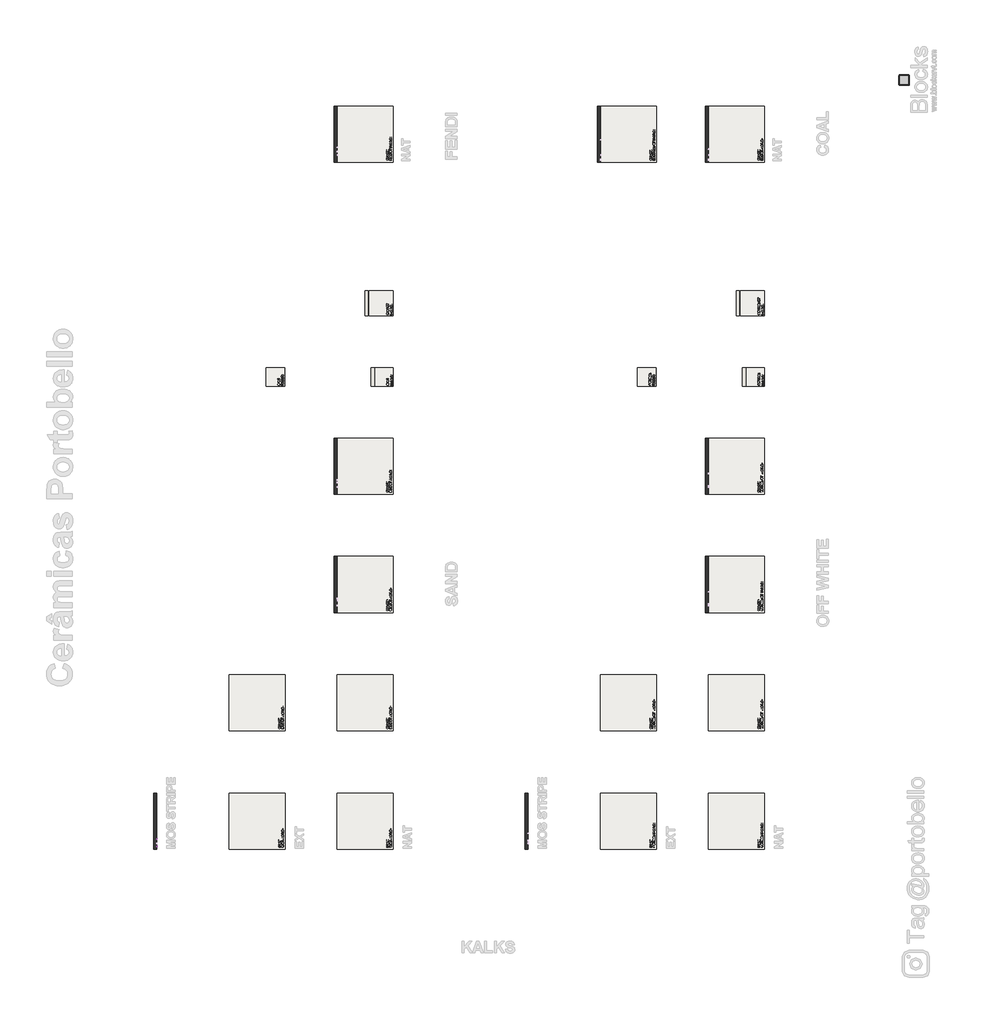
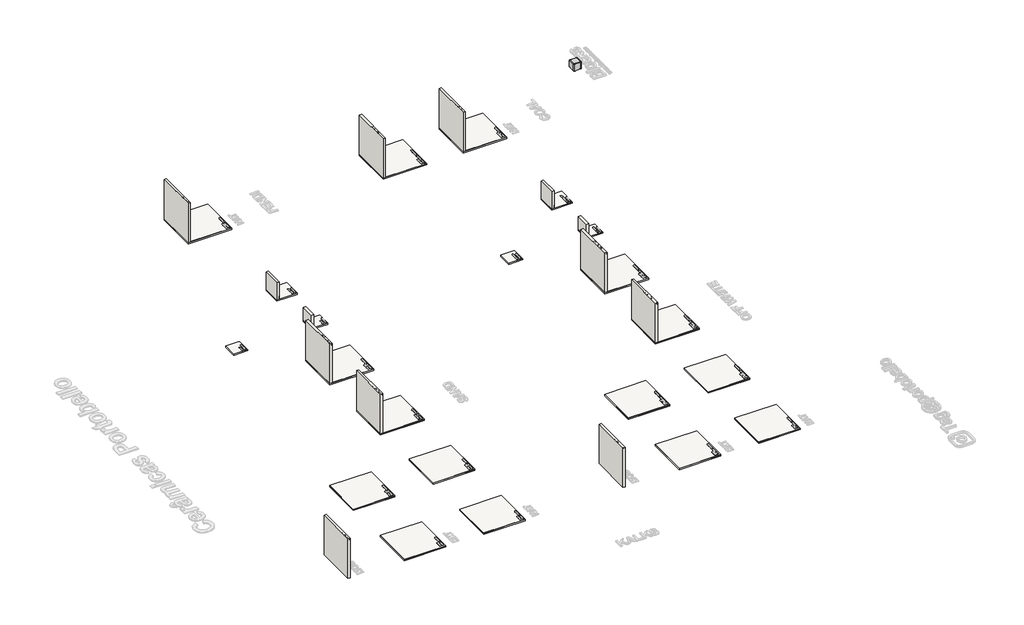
# One storey, part 1 of 19: 42 slabs, 13 walls, 2 proxies, 1 furniture element.
"""IFC4 building model written with IfcOpenShell, lengths in millimetres."""

from ifc_helpers import new_model, si_unit, frame, origin, origin_with_axes, place, context, project, spatial, polyline, outline, extrude, faceted_brep, transform, mapped, element, save
from components import branco_22256ad2

model = new_model("IFC4")

# Units and contexts
model_context = context("Model", 3, world=origin())
ifc_project = project(units=[si_unit("LENGTHUNIT", "METRE", prefix="MILLI")], contexts=[model_context])

# Site, building, storey
site = spatial("IfcSite", under=ifc_project)
building = spatial("IfcBuilding", under=site)
storey = spatial("IfcBuildingStorey", under=building, Name="PORTOBELLO - SHOWROOM", Elevation=0.0)

# Proxies
placement = place(None, origin())
element("IfcBuildingElementProxy", 1, Name="10mm Arial", ObjectType="10mm Arial", at=placement, inside=storey, context=model_context, shape_type="SweptSolid", body=[
    extrude(outline(polyline([(-7011.3816689, 2553.0064243), (-6998.8246301, 2553.0064243), (-6994.7779282, 2540.4371228), (-6984.8941652, 2532.4908717), (-6969.8355289, 2529.4619766), (-6956.7144044, 2531.7551077), (-6948.2408558, 2538.0581525), (-6945.4572153, 2546.4826502), (-6947.54188, 2554.3185367), (-6956.0767423, 2560.0207077), (-6974.3604774, 2564.8154363), (-6994.0421642, 2571.0081166), (-7004.7230048, 2580.3523193), (-7008.2424092, 2592.8357816), (-7003.8891389, 2607.0482894), (-6991.1726846, 2617.0792051), (-6972.5578557, 2620.5005077), (-6952.6922279, 2616.9197896), (-6939.4484761, 2606.3983645), (-6934.4698064, 2590.6775406), (-6947.0268452, 2590.6775406), (-6949.332239, 2598.1700706), (-6954.1392304, 2603.5779359), (-6972.0673463, 2607.9434689), (-6990.0445132, 2603.6269868), (-6995.6853704, 2593.2036636), (-6991.6877194, 2584.4971231), (-6971.1844295, 2577.4828397), (-6948.964357, 2571.1797948), (-6936.8119885, 2561.0017263), (-6932.9001766, 2546.8014813), (-6937.4005997, 2531.7796332), (-6950.3500459, 2520.8167497), (-6969.3450196, 2516.9049378), (-6991.7735585, 2521.123318), (-7005.9615408, 2533.8275096), (-7011.3816689, 2553.0064243)])), frame((-17694.205047, 0.0, 0.0), z_axis=(1.0, 0.0, 0.0), x_axis=(0.0, 1.0, 0.0)), (0.0, 0.0, 1.0), 20.0),
    extrude(outline(polyline([(-6868.5453529, 2527.8923467), (-6880.7222469, 2519.3820099), (-6894.1744652, 2516.9049378), (-6904.6682991, 2518.3948599), (-6912.4091494, 2522.8646261), (-6917.1824183, 2529.6520489), (-6918.773508, 2538.0949407), (-6916.3700123, 2548.0277546), (-6910.0547047, 2555.2382417), (-6901.262325, 2559.3585201), (-6890.3975434, 2561.246981), (-6868.6189293, 2565.563463), (-6868.5453529, 2568.3593662), (-6872.0034436, 2577.6299925), (-6885.8848576, 2581.2597615), (-6898.5890492, 2578.8440031), (-6904.6468393, 2570.2723526), (-6917.2038781, 2571.8419824), (-6911.7714873, 2584.1047156), (-6900.8331293, 2591.2906772), (-6884.2661768, 2593.8168003), (-6869.0481249, 2591.5849828), (-6860.451949, 2585.9809138), (-6856.6014508, 2577.4583142), (-6855.9883141, 2566.4709053), (-6855.9883141, 2550.8481832), (-6855.350652, 2529.0327809), (-6852.8490544, 2518.4745677), (-6865.4060932, 2518.4745677), (-6868.5453529, 2527.8923467)]), holes=[polyline([(-6868.5453529, 2553.0064243), (-6888.8033881, 2549.1559261), (-6899.606856, 2547.1203124), (-6904.4996865, 2543.8093744), (-6906.2164692, 2538.9778575), (-6902.4763356, 2532.1843033), (-6891.5011894, 2529.4619766), (-6878.7969978, 2532.4663462), (-6870.6054921, 2539.738147), (-6868.6189293, 2549.4502317), (-6868.5453529, 2553.0064243)])]), frame((-17694.205047, 0.0, 0.0), z_axis=(1.0, 0.0, 0.0), x_axis=(0.0, 1.0, 0.0)), (0.0, 0.0, 1.0), 20.0),
    extrude(outline(polyline([(-6838.7223858, 2518.4745677), (-6838.7223858, 2592.2471704), (-6826.165347, 2592.2471704), (-6826.165347, 2581.9464746), (-6816.563627, 2590.8492188), (-6803.4547652, 2593.8168003), (-6791.5967022, 2591.4255673), (-6783.5032983, 2585.1470479), (-6779.7386393, 2575.9132098), (-6779.0764517, 2563.773104), (-6779.0764517, 2518.4745677), (-6791.6334904, 2518.4745677), (-6791.6334904, 2562.0808468), (-6793.0804929, 2573.1908831), (-6798.1940527, 2579.0647323), (-6806.8147541, 2581.2597615), (-6820.4386507, 2576.3301428), (-6824.7336729, 2569.1871007), (-6826.165347, 2557.6172119), (-6826.165347, 2518.4745677), (-6838.7223858, 2518.4745677)])), frame((-17694.205047, 0.0, 0.0), z_axis=(1.0, 0.0, 0.0), x_axis=(0.0, 1.0, 0.0)), (0.0, 0.0, 1.0), 20.0),
    extrude(outline(polyline([(-6716.2912578, 2518.4745677), (-6716.2912578, 2530.3203679), (-6724.5992595, 2520.2587953), (-6736.0833092, 2516.9049378), (-6751.6324548, 2521.7609802), (-6762.6198637, 2535.3113003), (-6766.5194129, 2555.2872926), (-6762.9264321, 2575.2755477), (-6752.1597523, 2589.0343343), (-6736.1323601, 2593.8168003), (-6724.55634, 2590.3954977), (-6716.2912578, 2581.5050162), (-6716.2912578, 2618.9308778), (-6703.734219, 2618.9308778), (-6703.734219, 2518.4745677), (-6716.2912578, 2518.4745677)]), holes=[polyline([(-6753.9623741, 2555.3363436), (-6752.5460284, 2543.977987), (-6748.2969914, 2535.8999115), (-6742.1227052, 2531.0714603), (-6734.9306122, 2529.4619766), (-6727.7415849, 2530.9978839), (-6721.7236486, 2535.6056059), (-6717.6493555, 2543.3709817), (-6716.2912578, 2554.3798504), (-6717.673881, 2566.415723), (-6721.8217505, 2574.7605129), (-6727.9929709, 2579.6349494), (-6735.445647, 2581.2597615), (-6742.7113164, 2579.6993287), (-6748.6648734, 2575.0180303), (-6752.6379989, 2566.976743), (-6753.9623741, 2555.3363436)])]), frame((-17694.205047, 0.0, 0.0), z_axis=(1.0, 0.0, 0.0), x_axis=(0.0, 1.0, 0.0)), (0.0, 0.0, 1.0), 20.0),
])
element("IfcBuildingElementProxy", 2, Name="10mm Arial Narrow", ObjectType="10mm Arial Narrow", at=placement, inside=storey, context=model_context, shape_type="SweptSolid", body=[
    extrude(outline(polyline([(-6644.7671845, 2518.4745677), (-6644.7671845, 2615.7916181), (-6614.5272845, 2615.7916181), (-6598.7819351, 2613.9767336), (-6587.6964243, 2604.8164719), (-6583.5516205, 2588.3721467), (-6585.2776002, 2576.7041561), (-6590.4555393, 2567.402873), (-6599.8702527, 2561.314426), (-6614.3065553, 2559.2849437), (-6635.3494054, 2559.2849437), (-6635.3494054, 2518.4745677), (-6644.7671845, 2518.4745677)]), holes=[polyline([(-6635.3494054, 2570.2723526), (-6613.1538584, 2570.2723526), (-6597.8254419, 2574.6501483), (-6592.9693996, 2587.857112), (-6595.3606325, 2597.6795612), (-6601.1363799, 2603.2836303), (-6613.3745876, 2604.8042092), (-6635.3494054, 2604.8042092), (-6635.3494054, 2570.2723526)])]), frame((-17694.205047, 0.0, 0.0), z_axis=(1.0, 0.0, 0.0), x_axis=(0.0, 1.0, 0.0)), (0.0, 0.0, 1.0), 20.0),
    extrude(outline(polyline([(-6575.7034713, 2553.7912392), (-6573.8150104, 2569.8216971), (-6568.1496276, 2581.3701261), (-6559.5902399, 2588.350687), (-6549.0197639, 2590.6775406), (-6538.5719152, 2588.350687), (-6529.988002, 2581.3701261), (-6524.2490429, 2570.0056381), (-6522.3360565, 2554.5270032), (-6524.2153204, 2537.9447223), (-6529.8531119, 2526.2123523), (-6538.4033026, 2519.2317914), (-6549.0197639, 2516.9049378), (-6559.5135978, 2519.2379228), (-6568.088314, 2526.2368778), (-6573.7996819, 2537.7914381), (-6575.7034713, 2553.7912392)]), holes=[polyline([(-6566.2856922, 2553.8157647), (-6565.0256964, 2541.6879216), (-6561.2457089, 2533.1162711), (-6555.6017859, 2528.0211054), (-6548.7499837, 2526.3227169), (-6542.2568665, 2528.0364339), (-6536.7570307, 2533.1775847), (-6533.0046344, 2541.7645636), (-6531.7538356, 2553.8157647), (-6533.0138314, 2565.9068196), (-6536.7938189, 2574.4662073), (-6542.4377418, 2579.561373), (-6549.289544, 2581.2597615), (-6555.8286465, 2579.5521759), (-6561.3192853, 2574.4294191), (-6565.0440905, 2565.8608343), (-6566.2856922, 2553.8157647)])]), frame((-17694.205047, 0.0, 0.0), z_axis=(1.0, 0.0, 0.0), x_axis=(0.0, 1.0, 0.0)), (0.0, 0.0, 1.0), 20.0),
    extrude(outline(polyline([(-6453.2723433, 2526.3227169), (-6451.7027134, 2516.9049378), (-6458.8150987, 2516.9049378), (-6466.8104007, 2518.9528143), (-6470.97973, 2524.5568833), (-6472.1079014, 2538.7080774), (-6472.1079014, 2579.6901317), (-6479.9560507, 2579.6901317), (-6479.9560507, 2582.8293914), (-6481.5256805, 2578.1205018), (-6488.8342695, 2579.6901317), (-6494.7081187, 2577.4460515), (-6498.4482523, 2571.1797948), (-6500.3612386, 2556.2928368), (-6500.3612386, 2518.4745677), (-6509.7790177, 2518.4745677), (-6509.7790177, 2589.1079107), (-6500.3612386, 2589.1079107), (-6500.3612386, 2579.7391826), (-6494.3279739, 2588.5192995), (-6488.1475564, 2590.6775406), (-6479.9560507, 2589.1079107), (-6472.1079014, 2589.1079107), (-6472.1079014, 2604.8042092), (-6462.6901223, 2612.6523584), (-6462.6901223, 2589.1079107), (-6453.2723433, 2589.1079107), (-6453.2723433, 2579.6901317), (-6462.6901223, 2579.6901317), (-6462.6901223, 2536.5498364), (-6461.8562565, 2528.8243145), (-6457.3926216, 2526.3227169), (-6453.2723433, 2526.3227169)])), frame((-17694.205047, 0.0, 0.0), z_axis=(1.0, 0.0, 0.0), x_axis=(0.0, 1.0, 0.0)), (0.0, 0.0, 1.0), 20.0),
    extrude(outline(polyline([(-6446.9938239, 2553.7912392), (-6445.105363, 2569.8216971), (-6439.4399802, 2581.3701261), (-6430.8805925, 2588.350687), (-6420.3101165, 2590.6775406), (-6409.8622678, 2588.350687), (-6401.2783546, 2581.3701261), (-6395.5393955, 2570.0056381), (-6393.6264091, 2554.5270032), (-6395.505673, 2537.9447223), (-6401.1434646, 2526.2123523), (-6409.6936553, 2519.2317914), (-6420.3101165, 2516.9049378), (-6430.8039504, 2519.2379228), (-6439.3786666, 2526.2368778), (-6445.0900346, 2537.7914381), (-6446.9938239, 2553.7912392)]), holes=[polyline([(-6437.5760448, 2553.8157647), (-6436.316049, 2541.6879216), (-6432.5360615, 2533.1162711), (-6426.8921385, 2528.0211054), (-6420.0403364, 2526.3227169), (-6413.5472192, 2528.0364339), (-6408.0473833, 2533.1775847), (-6404.294987, 2541.7645636), (-6403.0441882, 2553.8157647), (-6404.304184, 2565.9068196), (-6408.0841715, 2574.4662073), (-6413.7280945, 2579.561373), (-6420.5798966, 2581.2597615), (-6427.1189991, 2579.5521759), (-6432.6096379, 2574.4294191), (-6436.3344431, 2565.8608343), (-6437.5760448, 2553.8157647)])]), frame((-17694.205047, 0.0, 0.0), z_axis=(1.0, 0.0, 0.0), x_axis=(0.0, 1.0, 0.0)), (0.0, 0.0, 1.0), 20.0),
    extrude(outline(polyline([(-6371.6515913, 2518.4745677), (-6381.0693703, 2518.4745677), (-6381.0693703, 2615.7916181), (-6371.6515913, 2615.7916181), (-6371.6515913, 2581.5785926), (-6364.5024178, 2588.4211977), (-6355.6119363, 2590.6775406), (-6343.1652621, 2586.6185759), (-6334.2012042, 2574.3190545), (-6330.8412153, 2554.3307995), (-6332.7082164, 2538.4321659), (-6338.3092198, 2526.641548), (-6346.399558, 2519.3390904), (-6355.7345636, 2516.9049378), (-6364.7599352, 2519.4310609), (-6371.6515913, 2526.9358536), (-6371.6515913, 2518.4745677)]), holes=[polyline([(-6371.6515913, 2554.3307995), (-6369.640503, 2537.6657451), (-6363.9505948, 2529.2289847), (-6355.7836145, 2526.3227169), (-6350.0415897, 2528.0517623), (-6344.9801466, 2533.2388984), (-6340.2589943, 2553.938392), (-6344.8084684, 2574.6501483), (-6349.8760428, 2579.6073582), (-6355.9798183, 2581.2597615), (-6361.7555656, 2579.5307161), (-6366.8691253, 2574.34358), (-6371.6515913, 2554.3307995)])]), frame((-17694.205047, 0.0, 0.0), z_axis=(1.0, 0.0, 0.0), x_axis=(0.0, 1.0, 0.0)), (0.0, 0.0, 1.0), 20.0),
    extrude(outline(polyline([(-6280.6130602, 2540.4493855), (-6271.1952811, 2538.8797557), (-6280.392331, 2522.4476932), (-6296.8734444, 2516.9049378), (-6308.0754511, 2519.2379228), (-6316.9107504, 2526.2368778), (-6322.6497095, 2537.6442853), (-6324.5626959, 2553.202628), (-6322.6405125, 2569.3066623), (-6316.8739622, 2581.0758205), (-6308.164356, 2588.2771106), (-6297.4130046, 2590.6775406), (-6287.090849, 2588.359884), (-6278.6387602, 2581.4069143), (-6273.0009686, 2570.0638861), (-6271.1217047, 2554.5760541), (-6271.1952811, 2551.4367944), (-6315.1449168, 2551.4367944), (-6309.344644, 2532.6502872), (-6303.6148819, 2527.9046095), (-6296.7508171, 2526.3227169), (-6286.916105, 2529.854384), (-6280.6130602, 2540.4493855)]), holes=[polyline([(-6314.5072547, 2560.8545735), (-6280.6130602, 2560.8545735), (-6284.7333385, 2574.6378856), (-6290.3619331, 2579.6042925), (-6297.3394282, 2581.2597615), (-6309.1361776, 2575.7415316), (-6314.5072547, 2560.8545735)])]), frame((-17694.205047, 0.0, 0.0), z_axis=(1.0, 0.0, 0.0), x_axis=(0.0, 1.0, 0.0)), (0.0, 0.0, 1.0), 20.0),
    extrude(outline(polyline([(-17674.205047, -6249.2204633), (-17674.205047, -6258.6382424), (-17694.205047, -6258.6382424), (-17694.205047, -6249.2204633), (-17674.205047, -6249.2204633)])), frame((0.0, 0.0, 2518.4745677), z_axis=(0.0, 0.0, 1.0), x_axis=(1.0, 0.0, 0.0)), (0.0, 0.0, 1.0), 97.3170505),
    extrude(outline(polyline([(-17674.205047, -6224.1063857), (-17674.205047, -6233.5241648), (-17694.205047, -6233.5241648), (-17694.205047, -6224.1063857), (-17674.205047, -6224.1063857)])), frame((0.0, 0.0, 2518.4745677), z_axis=(0.0, 0.0, 1.0), x_axis=(1.0, 0.0, 0.0)), (0.0, 0.0, 1.0), 97.3170505),
    extrude(outline(polyline([(-6213.1189768, 2553.7912392), (-6211.2305159, 2569.8216971), (-6205.5651332, 2581.3701261), (-6197.0057454, 2588.350687), (-6186.4352694, 2590.6775406), (-6175.9874208, 2588.350687), (-6167.4035075, 2581.3701261), (-6161.6645484, 2570.0056381), (-6159.751562, 2554.5270032), (-6161.6308259, 2537.9447223), (-6167.2686175, 2526.2123523), (-6175.8188082, 2519.2317914), (-6186.4352694, 2516.9049378), (-6196.9291033, 2519.2379228), (-6205.5038195, 2526.2368778), (-6211.2151875, 2537.7914381), (-6213.1189768, 2553.7912392)]), holes=[polyline([(-6203.7011977, 2553.8157647), (-6202.4412019, 2541.6879216), (-6198.6612144, 2533.1162711), (-6193.0172915, 2528.0211054), (-6186.1654893, 2526.3227169), (-6179.6723721, 2528.0364339), (-6174.1725363, 2533.1775847), (-6170.4201399, 2541.7645636), (-6169.1693411, 2553.8157647), (-6170.429337, 2565.9068196), (-6174.2093245, 2574.4662073), (-6179.8532474, 2579.561373), (-6186.7050496, 2581.2597615), (-6193.244152, 2579.5521759), (-6198.7347908, 2574.4294191), (-6202.459596, 2565.8608343), (-6203.7011977, 2553.8157647)])]), frame((-17694.205047, 0.0, 0.0), z_axis=(1.0, 0.0, 0.0), x_axis=(0.0, 1.0, 0.0)), (0.0, 0.0, 1.0), 20.0),
])

# Furniture
branco_shape = branco_22256ad2(model_context)
element("IfcFurniture", 3, ObjectType="Blks_Mob_Blocks Revit_Cubo : Branco", at=placement, inside=storey, context=model_context, shape_type="MappedRepresentation", body=[
    mapped(branco_shape, transform((18345.6723222, 29953.4130017, 0.0), x_axis=(1.0, 0.0, 0.0), y_axis=(0.0, 1.0, 0.0), z_axis=(0.0, 0.0, 1.0))),
])

# Slabs
element("IfcSlab", 4, ObjectType="PORTOBELLO - KALKS FENDI ST 120X270 NAT RET", at=placement, inside=storey, context=model_context, shape_type="SweptSolid", body=[
    extrude(outline(polyline([(-6294.2033025, 26001.8493171), (-8994.2033025, 26001.8493171), (-8994.2033025, 28701.8493171), (-6294.2033025, 28701.8493171), (-6294.2033025, 26001.8493171)])), frame((0.0, 0.0, -17.0), z_axis=(0.0, 0.0, 1.0), x_axis=(1.0, 0.0, 0.0)), (0.0, 0.0, 1.0), 17.0),
])
element("IfcSlab", 5, ObjectType="PORTOBELLO - LAJE", at=placement, inside=storey, context=model_context, shape_type="SweptSolid", body=[
    extrude(outline(polyline([(-6294.2033025, 28701.8493171), (-6294.2033025, 26001.8493171), (-9144.2033025, 26001.8493171), (-9144.2033025, 28701.8493171), (-6294.2033025, 28701.8493171)])), frame((0.0, 0.0, -97.0), z_axis=(0.0, 0.0, 1.0), x_axis=(1.0, 0.0, 0.0)), (0.0, 0.0, 1.0), 80.0),
])
element("IfcSlab", 6, ObjectType="PORTOBELLO - KALKS COAL ST 120X270 NAT RET", at=placement, inside=storey, context=model_context, shape_type="SweptSolid", body=[
    extrude(outline(polyline([(11605.7966975, 26001.8493171), (8905.7966975, 26001.8493171), (8905.7966975, 28701.8493171), (11605.7966975, 28701.8493171), (11605.7966975, 26001.8493171)])), frame((0.0, 0.0, -17.0), z_axis=(0.0, 0.0, 1.0), x_axis=(1.0, 0.0, 0.0)), (0.0, 0.0, 1.0), 17.0),
])
element("IfcSlab", 7, ObjectType="PORTOBELLO - LAJE", at=placement, inside=storey, context=model_context, shape_type="SweptSolid", body=[
    extrude(outline(polyline([(11605.7966975, 28701.8493171), (11605.7966975, 26001.8493171), (8755.7966975, 26001.8493171), (8755.7966975, 28701.8493171), (11605.7966975, 28701.8493171)])), frame((0.0, 0.0, -97.0), z_axis=(0.0, 0.0, 1.0), x_axis=(1.0, 0.0, 0.0)), (0.0, 0.0, 1.0), 80.0),
])
element("IfcSlab", 8, ObjectType="PORTOBELLO - KALKS COAL FRIEZE ST 120X270 NAT RET", at=placement, inside=storey, context=model_context, shape_type="SweptSolid", body=[
    extrude(outline(polyline([(6405.7966975, 26001.8493171), (3705.7966975, 26001.8493171), (3705.7966975, 28701.8493171), (6405.7966975, 28701.8493171), (6405.7966975, 26001.8493171)])), frame((0.0, 0.0, -17.0), z_axis=(0.0, 0.0, 1.0), x_axis=(1.0, 0.0, 0.0)), (0.0, 0.0, 1.0), 17.0),
])
element("IfcSlab", 9, ObjectType="PORTOBELLO - LAJE", at=placement, inside=storey, context=model_context, shape_type="SweptSolid", body=[
    extrude(outline(polyline([(6405.7966975, 28701.8493171), (6405.7966975, 26001.8493171), (3555.7966975, 26001.8493171), (3555.7966975, 28701.8493171), (6405.7966975, 28701.8493171)])), frame((0.0, 0.0, -97.0), z_axis=(0.0, 0.0, 1.0), x_axis=(1.0, 0.0, 0.0)), (0.0, 0.0, 1.0), 80.0),
])
element("IfcSlab", 10, ObjectType="PORTOBELLO - LAJE", at=placement, inside=storey, context=model_context, shape_type="SweptSolid", body=[
    extrude(outline(polyline([(-6294.2033025, -4396.3032199), (-6294.2033025, -7096.3032199), (-8994.2033025, -7096.3032199), (-8994.2033025, -4396.3032199), (-6294.2033025, -4396.3032199)])), frame((0.0, 0.0, -80.0), z_axis=(0.0, 0.0, 1.0), x_axis=(1.0, 0.0, 0.0)), (0.0, 0.0, 1.0), 80.0),
])
element("IfcSlab", 11, ObjectType="PORTOBELLO - KALKS SAND 90X90 NAT RET", at=placement, inside=storey, context=model_context, shape_type="SweptSolid", body=[
    extrude(outline(polyline([(-6294.2033025, -7096.3032199), (-8994.2033025, -7096.3032199), (-8994.2033025, -4396.3032199), (-6294.2033025, -4396.3032199), (-6294.2033025, -7096.3032199)])), origin_with_axes(), (0.0, 0.0, 1.0), 18.0),
])
element("IfcSlab", 12, ObjectType="PORTOBELLO - LAJE", at=placement, inside=storey, context=model_context, shape_type="SweptSolid", body=[
    extrude(outline(polyline([(-6294.2033025, 1303.6967801), (-6294.2033025, -1396.3032199), (-8994.2033025, -1396.3032199), (-8994.2033025, 1303.6967801), (-6294.2033025, 1303.6967801)])), frame((0.0, 0.0, -80.0), z_axis=(0.0, 0.0, 1.0), x_axis=(1.0, 0.0, 0.0)), (0.0, 0.0, 1.0), 80.0),
])
element("IfcSlab", 13, ObjectType="PORTOBELLO - KALKS SAND ST 120X120 NAT RET", at=placement, inside=storey, context=model_context, shape_type="SweptSolid", body=[
    extrude(outline(polyline([(-6294.2033025, -1396.3032199), (-8994.2033025, -1396.3032199), (-8994.2033025, 1303.6967801), (-6294.2033025, 1303.6967801), (-6294.2033025, -1396.3032199)])), origin_with_axes(), (0.0, 0.0, 1.0), 17.0),
])
element("IfcSlab", 14, ObjectType="PORTOBELLO - LAJE", at=placement, inside=storey, context=model_context, shape_type="SweptSolid", body=[
    extrude(outline(polyline([(-11494.2033025, -4396.3032199), (-11494.2033025, -7096.3032199), (-14194.2033025, -7096.3032199), (-14194.2033025, -4396.3032199), (-11494.2033025, -4396.3032199)])), frame((0.0, 0.0, -80.0), z_axis=(0.0, 0.0, 1.0), x_axis=(1.0, 0.0, 0.0)), (0.0, 0.0, 1.0), 80.0),
])
element("IfcSlab", 15, ObjectType="PORTOBELLO - KALKS SAND 90X90 EXT RET", at=placement, inside=storey, context=model_context, shape_type="SweptSolid", body=[
    extrude(outline(polyline([(-11494.2033025, -7096.3032199), (-14194.2033025, -7096.3032199), (-14194.2033025, -4396.3032199), (-11494.2033025, -4396.3032199), (-11494.2033025, -7096.3032199)])), origin_with_axes(), (0.0, 0.0, 1.0), 18.0),
])
element("IfcSlab", 16, ObjectType="PORTOBELLO - LAJE", at=placement, inside=storey, context=model_context, shape_type="SweptSolid", body=[
    extrude(outline(polyline([(-11494.2033025, 1303.6967801), (-11494.2033025, -1396.3032199), (-14194.2033025, -1396.3032199), (-14194.2033025, 1303.6967801), (-11494.2033025, 1303.6967801)])), frame((0.0, 0.0, -80.0), z_axis=(0.0, 0.0, 1.0), x_axis=(1.0, 0.0, 0.0)), (0.0, 0.0, 1.0), 80.0),
])
element("IfcSlab", 17, ObjectType="PORTOBELLO - KALKS SAND ST 120X120 EXT RET", at=placement, inside=storey, context=model_context, shape_type="SweptSolid", body=[
    extrude(outline(polyline([(-11494.2033025, -1396.3032199), (-14194.2033025, -1396.3032199), (-14194.2033025, 1303.6967801), (-11494.2033025, 1303.6967801), (-11494.2033025, -1396.3032199)])), origin_with_axes(), (0.0, 0.0, 1.0), 17.0),
])
element("IfcSlab", 18, ObjectType="PORTOBELLO - KALKS SAND ST 160X160 NAT RET", at=placement, inside=storey, context=model_context, shape_type="SweptSolid", body=[
    extrude(outline(polyline([(-6294.2033025, 10003.6967801), (-8994.2033025, 10003.6967801), (-8994.2033025, 12703.6967801), (-6294.2033025, 12703.6967801), (-6294.2033025, 10003.6967801)])), frame((0.0, 0.0, -17.0), z_axis=(0.0, 0.0, 1.0), x_axis=(1.0, 0.0, 0.0)), (0.0, 0.0, 1.0), 17.0),
])
element("IfcSlab", 19, ObjectType="PORTOBELLO - LAJE", at=placement, inside=storey, context=model_context, shape_type="SweptSolid", body=[
    extrude(outline(polyline([(-6294.2033025, 12703.6967801), (-6294.2033025, 10003.6967801), (-9144.2033025, 10003.6967801), (-9144.2033025, 12703.6967801), (-6294.2033025, 12703.6967801)])), frame((0.0, 0.0, -97.0), z_axis=(0.0, 0.0, 1.0), x_axis=(1.0, 0.0, 0.0)), (0.0, 0.0, 1.0), 80.0),
])
element("IfcSlab", 20, ObjectType="PORTOBELLO - KALKS SAND ST 120X270 NAT RET", at=placement, inside=storey, context=model_context, shape_type="SweptSolid", body=[
    extrude(outline(polyline([(-6294.2033025, 4303.6967801), (-8994.2033025, 4303.6967801), (-8994.2033025, 7003.6967801), (-6294.2033025, 7003.6967801), (-6294.2033025, 4303.6967801)])), frame((0.0, 0.0, -17.0), z_axis=(0.0, 0.0, 1.0), x_axis=(1.0, 0.0, 0.0)), (0.0, 0.0, 1.0), 17.0),
])
element("IfcSlab", 21, ObjectType="PORTOBELLO - LAJE", at=placement, inside=storey, context=model_context, shape_type="SweptSolid", body=[
    extrude(outline(polyline([(-6294.2033025, 7003.6967801), (-6294.2033025, 4303.6967801), (-9144.2033025, 4303.6967801), (-9144.2033025, 7003.6967801), (-6294.2033025, 7003.6967801)])), frame((0.0, 0.0, -97.0), z_axis=(0.0, 0.0, 1.0), x_axis=(1.0, 0.0, 0.0)), (0.0, 0.0, 1.0), 80.0),
])
element("IfcSlab", 22, ObjectType="PORTOBELLO - LAJE", at=placement, inside=storey, context=model_context, shape_type="SweptSolid", body=[
    extrude(outline(polyline([(11605.7966975, -4396.3032199), (11605.7966975, -7096.3032199), (8905.7966975, -7096.3032199), (8905.7966975, -4396.3032199), (11605.7966975, -4396.3032199)])), frame((0.0, 0.0, -80.0), z_axis=(0.0, 0.0, 1.0), x_axis=(1.0, 0.0, 0.0)), (0.0, 0.0, 1.0), 80.0),
])
element("IfcSlab", 23, ObjectType="PORTOBELLO - KALKS OFF WHITE 90X90 NAT RET", at=placement, inside=storey, context=model_context, shape_type="SweptSolid", body=[
    extrude(outline(polyline([(11605.7966975, -7096.3032199), (8905.7966975, -7096.3032199), (8905.7966975, -4396.3032199), (11605.7966975, -4396.3032199), (11605.7966975, -7096.3032199)])), origin_with_axes(), (0.0, 0.0, 1.0), 18.0),
])
element("IfcSlab", 24, ObjectType="PORTOBELLO - LAJE", at=placement, inside=storey, context=model_context, shape_type="SweptSolid", body=[
    extrude(outline(polyline([(11605.7966975, 1303.6967801), (11605.7966975, -1396.3032199), (8905.7966975, -1396.3032199), (8905.7966975, 1303.6967801), (11605.7966975, 1303.6967801)])), frame((0.0, 0.0, -80.0), z_axis=(0.0, 0.0, 1.0), x_axis=(1.0, 0.0, 0.0)), (0.0, 0.0, 1.0), 80.0),
])
element("IfcSlab", 25, ObjectType="PORTOBELLO - KALKS OFF WHITE ST 120X120 NAT RET", at=placement, inside=storey, context=model_context, shape_type="SweptSolid", body=[
    extrude(outline(polyline([(11605.7966975, -1396.3032199), (8905.7966975, -1396.3032199), (8905.7966975, 1303.6967801), (11605.7966975, 1303.6967801), (11605.7966975, -1396.3032199)])), origin_with_axes(), (0.0, 0.0, 1.0), 17.0),
])
element("IfcSlab", 26, ObjectType="PORTOBELLO - LAJE", at=placement, inside=storey, context=model_context, shape_type="SweptSolid", body=[
    extrude(outline(polyline([(6405.7966975, -4396.3032199), (6405.7966975, -7096.3032199), (3705.7966975, -7096.3032199), (3705.7966975, -4396.3032199), (6405.7966975, -4396.3032199)])), frame((0.0, 0.0, -80.0), z_axis=(0.0, 0.0, 1.0), x_axis=(1.0, 0.0, 0.0)), (0.0, 0.0, 1.0), 80.0),
])
element("IfcSlab", 27, ObjectType="PORTOBELLO - KALKS OFF WHITE 90X90 EXT RET", at=placement, inside=storey, context=model_context, shape_type="SweptSolid", body=[
    extrude(outline(polyline([(6405.7966975, -7096.3032199), (3705.7966975, -7096.3032199), (3705.7966975, -4396.3032199), (6405.7966975, -4396.3032199), (6405.7966975, -7096.3032199)])), origin_with_axes(), (0.0, 0.0, 1.0), 18.0),
])
element("IfcSlab", 28, ObjectType="PORTOBELLO - LAJE", at=placement, inside=storey, context=model_context, shape_type="SweptSolid", body=[
    extrude(outline(polyline([(6405.7966975, 1303.6967801), (6405.7966975, -1396.3032199), (3705.7966975, -1396.3032199), (3705.7966975, 1303.6967801), (6405.7966975, 1303.6967801)])), frame((0.0, 0.0, -80.0), z_axis=(0.0, 0.0, 1.0), x_axis=(1.0, 0.0, 0.0)), (0.0, 0.0, 1.0), 80.0),
])
element("IfcSlab", 29, ObjectType="PORTOBELLO - KALKS OFF WHITE ST 120X120 EXT RET", at=placement, inside=storey, context=model_context, shape_type="SweptSolid", body=[
    extrude(outline(polyline([(6405.7966975, -1396.3032199), (3705.7966975, -1396.3032199), (3705.7966975, 1303.6967801), (6405.7966975, 1303.6967801), (6405.7966975, -1396.3032199)])), origin_with_axes(), (0.0, 0.0, 1.0), 17.0),
])
element("IfcSlab", 30, ObjectType="PORTOBELLO - KALKS OFF WHITE ST 160X160 NAT RET", at=placement, inside=storey, context=model_context, shape_type="SweptSolid", body=[
    extrude(outline(polyline([(11605.7966975, 10003.6967801), (8905.7966975, 10003.6967801), (8905.7966975, 12703.6967801), (11605.7966975, 12703.6967801), (11605.7966975, 10003.6967801)])), frame((0.0, 0.0, -17.0), z_axis=(0.0, 0.0, 1.0), x_axis=(1.0, 0.0, 0.0)), (0.0, 0.0, 1.0), 17.0),
])
element("IfcSlab", 31, ObjectType="PORTOBELLO - LAJE", at=placement, inside=storey, context=model_context, shape_type="SweptSolid", body=[
    extrude(outline(polyline([(11605.7966975, 12703.6967801), (11605.7966975, 10003.6967801), (8755.7966975, 10003.6967801), (8755.7966975, 12703.6967801), (11605.7966975, 12703.6967801)])), frame((0.0, 0.0, -97.0), z_axis=(0.0, 0.0, 1.0), x_axis=(1.0, 0.0, 0.0)), (0.0, 0.0, 1.0), 80.0),
])
element("IfcSlab", 32, ObjectType="PORTOBELLO - KALKS OFF WHITE ST 120X270 NAT RET", at=placement, inside=storey, context=model_context, shape_type="SweptSolid", body=[
    extrude(outline(polyline([(11605.7966975, 4303.6967801), (8905.7966975, 4303.6967801), (8905.7966975, 7003.6967801), (11605.7966975, 7003.6967801), (11605.7966975, 4303.6967801)])), frame((0.0, 0.0, -17.0), z_axis=(0.0, 0.0, 1.0), x_axis=(1.0, 0.0, 0.0)), (0.0, 0.0, 1.0), 17.0),
])
element("IfcSlab", 33, ObjectType="PORTOBELLO - LAJE", at=placement, inside=storey, context=model_context, shape_type="SweptSolid", body=[
    extrude(outline(polyline([(11605.7966975, 7003.6967801), (11605.7966975, 4303.6967801), (8755.7966975, 4303.6967801), (8755.7966975, 7003.6967801), (11605.7966975, 7003.6967801)])), frame((0.0, 0.0, -97.0), z_axis=(0.0, 0.0, 1.0), x_axis=(1.0, 0.0, 0.0)), (0.0, 0.0, 1.0), 80.0),
])
element("IfcSlab", 34, ObjectType="PORTOBELLO - LAJE", at=placement, inside=storey, context=model_context, shape_type="SweptSolid", body=[
    extrude(outline(polyline([(6394.7966975, 16105.6967801), (6394.7966975, 15205.6967801), (5494.7966975, 15205.6967801), (5494.7966975, 16105.6967801), (6394.7966975, 16105.6967801)])), frame((0.0, 0.0, -80.0), z_axis=(0.0, 0.0, 1.0), x_axis=(1.0, 0.0, 0.0)), (0.0, 0.0, 1.0), 80.0),
])
element("IfcSlab", 35, ObjectType="PORTOBELLO - KALKS OFF WHITE 90X90 EXT RET", at=placement, inside=storey, context=model_context, shape_type="SweptSolid", body=[
    extrude(outline(polyline([(-1.0, 5494.7966975), (-1.0, 6394.7966975), (8.0, 6394.7966975), (8.0, 6377.7966975), (17.0, 6377.7966975), (17.0, 5494.7966975), (-1.0, 5494.7966975)])), frame((0.0, 15205.6967801, 0.0), z_axis=(0.0, 1.0, 0.0), x_axis=(0.0, 0.0, 1.0)), (0.0, 0.0, 1.0), 900.0),
])
element("IfcSlab", 36, ObjectType="PORTOBELLO - LAJE", at=placement, inside=storey, context=model_context, shape_type="SweptSolid", body=[
    extrude(outline(polyline([(-11505.2033025, 16105.6967801), (-11505.2033025, 15205.6967801), (-12405.2033025, 15205.6967801), (-12405.2033025, 16105.6967801), (-11505.2033025, 16105.6967801)])), frame((0.0, 0.0, -80.0), z_axis=(0.0, 0.0, 1.0), x_axis=(1.0, 0.0, 0.0)), (0.0, 0.0, 1.0), 80.0),
])
element("IfcSlab", 37, ObjectType="PORTOBELLO - KALKS SAND 90X90 EXT RET", at=placement, inside=storey, context=model_context, shape_type="SweptSolid", body=[
    extrude(outline(polyline([(-1.0, -12405.2033025), (-1.0, -11505.2033025), (8.0, -11505.2033025), (8.0, -11522.2033025), (17.0, -11522.2033025), (17.0, -12405.2033025), (-1.0, -12405.2033025)])), frame((0.0, 15205.6967801, 0.0), z_axis=(0.0, 1.0, 0.0), x_axis=(0.0, 0.0, 1.0)), (0.0, 0.0, 1.0), 900.0),
])
element("IfcSlab", 38, ObjectType="PORTOBELLO_LAJE", at=placement, inside=storey, context=model_context, shape_type="Brep", body=[
    faceted_brep([(11605.7966975, 19803.6967801, -80.0), (11605.7966975, 18603.6967801, -80.0), (10255.7966975, 18603.6967801, -80.0), (10255.7966975, 19803.6967801, -80.0), (11605.7966975, 19803.6967801, 0.0), (10405.7966975, 19803.6967801, 0.0), (10255.7966975, 19803.6967801, 0.0), (10255.7966975, 18603.6967801, 0.0), (10405.7966975, 18603.6967801, 0.0), (11605.7966975, 18603.6967801, 0.0)], [[[0, 1, 2, 3]], [[4, 5, 6, 7, 8, 9]], [[1, 0, 4, 9]], [[2, 1, 9, 8, 7]], [[3, 2, 7, 6]], [[0, 3, 6, 5, 4]]]),
])
element("IfcSlab", 39, ObjectType="PORTOBELLO - KALKS OFF WHITE ST 120X120 NAT RET", at=placement, inside=storey, context=model_context, shape_type="SweptSolid", body=[
    extrude(outline(polyline([(11605.7966975, 19803.6967801), (11605.7966975, 18603.6967801), (10405.7966975, 18603.6967801), (10405.7966975, 19803.6967801), (11605.7966975, 19803.6967801)])), frame((0.0, 0.0, 1.0), z_axis=(0.0, 0.0, 1.0), x_axis=(1.0, 0.0, 0.0)), (0.0, 0.0, 1.0), 17.0),
])
element("IfcSlab", 40, ObjectType="PORTOBELLO_LAJE", at=placement, inside=storey, context=model_context, shape_type="Brep", body=[
    faceted_brep([(11605.7966975, 16103.6967801, -80.0), (11605.7966975, 15203.6967801, -80.0), (10555.7966975, 15203.6967801, -80.0), (10555.7966975, 16103.6967801, -80.0), (11605.7966975, 16103.6967801, 0.0), (10705.7966975, 16103.6967801, 0.0), (10555.7966975, 16103.6967801, 0.0), (10555.7966975, 15203.6967801, 0.0), (10705.7966975, 15203.6967801, 0.0), (11605.7966975, 15203.6967801, 0.0)], [[[0, 1, 2, 3]], [[4, 5, 6, 7, 8, 9]], [[1, 0, 4, 9]], [[2, 1, 9, 8, 7]], [[3, 2, 7, 6]], [[0, 3, 6, 5, 4]]]),
])
element("IfcSlab", 41, ObjectType="PORTOBELLO - KALKS OFF WHITE 90X90 NAT RET", at=placement, inside=storey, context=model_context, shape_type="SweptSolid", body=[
    extrude(outline(polyline([(11605.7966975, 16103.6967801), (11605.7966975, 15203.6967801), (10705.7966975, 15203.6967801), (10705.7966975, 16103.6967801), (11605.7966975, 16103.6967801)])), frame((0.0, 0.0, -1.0), z_axis=(0.0, 0.0, 1.0), x_axis=(1.0, 0.0, 0.0)), (0.0, 0.0, 1.0), 18.0),
])
element("IfcSlab", 42, ObjectType="PORTOBELLO_LAJE", at=placement, inside=storey, context=model_context, shape_type="Brep", body=[
    faceted_brep([(-6294.2033025, 19803.6967801, -80.0), (-6294.2033025, 18603.6967801, -80.0), (-7644.2033025, 18603.6967801, -80.0), (-7644.2033025, 19803.6967801, -80.0), (-6294.2033025, 19803.6967801, 0.0), (-7494.2033025, 19803.6967801, 0.0), (-7644.2033025, 19803.6967801, 0.0), (-7644.2033025, 18603.6967801, 0.0), (-7494.2033025, 18603.6967801, 0.0), (-6294.2033025, 18603.6967801, 0.0)], [[[0, 1, 2, 3]], [[4, 5, 6, 7, 8, 9]], [[1, 0, 4, 9]], [[2, 1, 9, 8, 7]], [[3, 2, 7, 6]], [[0, 3, 6, 5, 4]]]),
])
element("IfcSlab", 43, ObjectType="PORTOBELLO - KALKS SAND ST 120X120 NAT RET", at=placement, inside=storey, context=model_context, shape_type="SweptSolid", body=[
    extrude(outline(polyline([(-6294.2033025, 19803.6967801), (-6294.2033025, 18603.6967801), (-7494.2033025, 18603.6967801), (-7494.2033025, 19803.6967801), (-6294.2033025, 19803.6967801)])), frame((0.0, 0.0, 1.0), z_axis=(0.0, 0.0, 1.0), x_axis=(1.0, 0.0, 0.0)), (0.0, 0.0, 1.0), 17.0),
])
element("IfcSlab", 44, ObjectType="PORTOBELLO_LAJE", at=placement, inside=storey, context=model_context, shape_type="Brep", body=[
    faceted_brep([(-6294.2033025, 16103.6967801, -80.0), (-6294.2033025, 15203.6967801, -80.0), (-7344.2033025, 15203.6967801, -80.0), (-7344.2033025, 16103.6967801, -80.0), (-6294.2033025, 16103.6967801, 0.0), (-7194.2033025, 16103.6967801, 0.0), (-7344.2033025, 16103.6967801, 0.0), (-7344.2033025, 15203.6967801, 0.0), (-7194.2033025, 15203.6967801, 0.0), (-6294.2033025, 15203.6967801, 0.0)], [[[0, 1, 2, 3]], [[4, 5, 6, 7, 8, 9]], [[1, 0, 4, 9]], [[2, 1, 9, 8, 7]], [[3, 2, 7, 6]], [[0, 3, 6, 5, 4]]]),
])
element("IfcSlab", 45, ObjectType="PORTOBELLO - KALKS SAND 90X90 NAT RET", at=placement, inside=storey, context=model_context, shape_type="SweptSolid", body=[
    extrude(outline(polyline([(-6294.2033025, 16103.6967801), (-6294.2033025, 15203.6967801), (-7194.2033025, 15203.6967801), (-7194.2033025, 16103.6967801), (-6294.2033025, 16103.6967801)])), frame((0.0, 0.0, -1.0), z_axis=(0.0, 0.0, 1.0), x_axis=(1.0, 0.0, 0.0)), (0.0, 0.0, 1.0), 18.0),
])

# Walls
element("IfcWall", 46, ObjectType="PORTOBELLO - KALKS FENDI ST 120X270 NAT RET", at=placement, inside=storey, context=model_context, shape_type="SweptSolid", body=[
    extrude(outline(polyline([(-8994.2033025, 28701.8493171), (-8994.2033025, 26001.8493171), (-9144.2033025, 26001.8493171), (-9144.2033025, 28701.8493171), (-8994.2033025, 28701.8493171)])), frame((0.0, 0.0, -17.0), z_axis=(0.0, 0.0, 1.0), x_axis=(1.0, 0.0, 0.0)), (0.0, 0.0, 1.0), 2717.0),
])
element("IfcWall", 47, ObjectType="PORTOBELLO - KALKS COAL ST 120X270 NAT RET", at=placement, inside=storey, context=model_context, shape_type="SweptSolid", body=[
    extrude(outline(polyline([(8905.7966975, 28701.8493171), (8905.7966975, 26001.8493171), (8755.7966975, 26001.8493171), (8755.7966975, 28701.8493171), (8905.7966975, 28701.8493171)])), frame((0.0, 0.0, -17.0), z_axis=(0.0, 0.0, 1.0), x_axis=(1.0, 0.0, 0.0)), (0.0, 0.0, 1.0), 2717.0),
])
element("IfcWall", 48, ObjectType="PORTOBELLO - KALKS COAL FRIEZE ST 120X270 NAT RET", at=placement, inside=storey, context=model_context, shape_type="SweptSolid", body=[
    extrude(outline(polyline([(3705.7966975, 28701.8493171), (3705.7966975, 26001.8493171), (3555.7966975, 26001.8493171), (3555.7966975, 28701.8493171), (3705.7966975, 28701.8493171)])), frame((0.0, 0.0, -17.0), z_axis=(0.0, 0.0, 1.0), x_axis=(1.0, 0.0, 0.0)), (0.0, 0.0, 1.0), 2717.0),
])
element("IfcWall", 49, ObjectType="PORTOBELLO - KALKS SAND ST 160X160 NAT RET", at=placement, inside=storey, context=model_context, shape_type="SweptSolid", body=[
    extrude(outline(polyline([(-8994.2033025, 12703.6967801), (-8994.2033025, 10003.6967801), (-9144.2033025, 10003.6967801), (-9144.2033025, 12703.6967801), (-8994.2033025, 12703.6967801)])), frame((0.0, 0.0, -17.0), z_axis=(0.0, 0.0, 1.0), x_axis=(1.0, 0.0, 0.0)), (0.0, 0.0, 1.0), 2717.0),
])
element("IfcWall", 50, ObjectType="PORTOBELLO - PORTOBELLO - KALKS SAND ST 120X270 NAT RET", at=placement, inside=storey, context=model_context, shape_type="SweptSolid", body=[
    extrude(outline(polyline([(-8994.2033025, 7003.6967801), (-8994.2033025, 4303.6967801), (-9144.2033025, 4303.6967801), (-9144.2033025, 7003.6967801), (-8994.2033025, 7003.6967801)])), frame((0.0, 0.0, -17.0), z_axis=(0.0, 0.0, 1.0), x_axis=(1.0, 0.0, 0.0)), (0.0, 0.0, 1.0), 2717.0),
])
element("IfcWall", 51, ObjectType="PORTOBELLO - MOS STRIPE KALKS SAND 30X30 NAT TEL", at=placement, inside=storey, context=model_context, shape_type="SweptSolid", body=[
    extrude(outline(polyline([(-17694.205047, -4396.3032199), (-17694.205047, -7096.3032199), (-17844.205047, -7096.3032199), (-17844.205047, -4396.3032199), (-17694.205047, -4396.3032199)])), frame((0.0, 0.0, -17.0), z_axis=(0.0, 0.0, 1.0), x_axis=(1.0, 0.0, 0.0)), (0.0, 0.0, 1.0), 2717.0),
])
element("IfcWall", 52, ObjectType="PORTOBELLO - KALKS OFF WHITE ST 160X160 NAT RET", at=placement, inside=storey, context=model_context, shape_type="SweptSolid", body=[
    extrude(outline(polyline([(8905.7966975, 12703.6967801), (8905.7966975, 10003.6967801), (8755.7966975, 10003.6967801), (8755.7966975, 12703.6967801), (8905.7966975, 12703.6967801)])), frame((0.0, 0.0, -17.0), z_axis=(0.0, 0.0, 1.0), x_axis=(1.0, 0.0, 0.0)), (0.0, 0.0, 1.0), 2717.0),
])
element("IfcWall", 53, ObjectType="PORTOBELLO - KALKS OFF WHITE ST 120X270 NAT RET", at=placement, inside=storey, context=model_context, shape_type="SweptSolid", body=[
    extrude(outline(polyline([(8905.7966975, 7003.6967801), (8905.7966975, 4303.6967801), (8755.7966975, 4303.6967801), (8755.7966975, 7003.6967801), (8905.7966975, 7003.6967801)])), frame((0.0, 0.0, -17.0), z_axis=(0.0, 0.0, 1.0), x_axis=(1.0, 0.0, 0.0)), (0.0, 0.0, 1.0), 2717.0),
])
element("IfcWall", 54, ObjectType="PORTOBELLO - MOS STRIPE KALKS OFF WHITE 30X30 NAT TEL", at=placement, inside=storey, context=model_context, shape_type="SweptSolid", body=[
    extrude(outline(polyline([(205.794953, -4396.3032199), (205.794953, -7096.3032199), (55.794953, -7096.3032199), (55.794953, -4396.3032199), (205.794953, -4396.3032199)])), frame((0.0, 0.0, -17.0), z_axis=(0.0, 0.0, 1.0), x_axis=(1.0, 0.0, 0.0)), (0.0, 0.0, 1.0), 2717.0),
])
element("IfcWall", 55, ObjectType="PORTOBELLO - KALKS OFF WHITE ST 120X120 NAT RET", at=placement, inside=storey, context=model_context, shape_type="Brep", body=[
    faceted_brep([(10405.7966975, 18603.6967801, 0.0), (10405.7966975, 19803.6967801, 0.0), (10405.7966975, 19803.6967801, 17.0), (10405.7966975, 19803.6967801, 217.0), (10405.7966975, 19803.6967801, 1200.0), (10405.7966975, 18603.6967801, 1200.0), (10405.7966975, 18603.6967801, 217.0), (10405.7966975, 18603.6967801, 17.0), (10255.7966975, 19803.6967801, 0.0), (10255.7966975, 18603.6967801, 0.0), (10255.7966975, 18603.6967801, 1200.0), (10255.7966975, 19803.6967801, 1200.0)], [[[0, 1, 2, 3, 4, 5, 6, 7]], [[8, 9, 10, 11]], [[1, 0, 9, 8]], [[8, 11, 4, 3, 2, 1]], [[5, 4, 11, 10]], [[10, 9, 0, 7, 6, 5]]]),
])
element("IfcWall", 56, ObjectType="PORTOBELLO - KALKS OFF WHITE 90X90 NAT RET", at=placement, inside=storey, context=model_context, shape_type="Brep", body=[
    faceted_brep([(10705.7966975, 15203.6967801, 0.0), (10705.7966975, 16103.6967801, 0.0), (10705.7966975, 16103.6967801, 17.0), (10705.7966975, 16103.6967801, 217.0), (10705.7966975, 16103.6967801, 900.0), (10705.7966975, 15203.6967801, 900.0), (10705.7966975, 15203.6967801, 217.0), (10705.7966975, 15203.6967801, 17.0), (10555.7966975, 16103.6967801, 0.0), (10555.7966975, 15203.6967801, 0.0), (10555.7966975, 15203.6967801, 900.0), (10555.7966975, 16103.6967801, 900.0)], [[[0, 1, 2, 3, 4, 5, 6, 7]], [[8, 9, 10, 11]], [[1, 0, 9, 8]], [[8, 11, 4, 3, 2, 1]], [[5, 4, 11, 10]], [[10, 9, 0, 7, 6, 5]]]),
])
element("IfcWall", 57, ObjectType="PORTOBELLO - KALKS SAND ST 120X120 NAT RET", at=placement, inside=storey, context=model_context, shape_type="Brep", body=[
    faceted_brep([(-7494.2033025, 18603.6967801, 0.0), (-7494.2033025, 19803.6967801, 0.0), (-7494.2033025, 19803.6967801, 17.0), (-7494.2033025, 19803.6967801, 217.0), (-7494.2033025, 19803.6967801, 1200.0), (-7494.2033025, 18603.6967801, 1200.0), (-7494.2033025, 18603.6967801, 217.0), (-7494.2033025, 18603.6967801, 17.0), (-7644.2033025, 19803.6967801, 0.0), (-7644.2033025, 18603.6967801, 0.0), (-7644.2033025, 18603.6967801, 1200.0), (-7644.2033025, 19803.6967801, 1200.0)], [[[0, 1, 2, 3, 4, 5, 6, 7]], [[8, 9, 10, 11]], [[1, 0, 9, 8]], [[8, 11, 4, 3, 2, 1]], [[5, 4, 11, 10]], [[10, 9, 0, 7, 6, 5]]]),
])
element("IfcWall", 58, ObjectType="PORTOBELLO - KALKS SAND 90X90 NAT RET", at=placement, inside=storey, context=model_context, shape_type="Brep", body=[
    faceted_brep([(-7194.2033025, 15203.6967801, 0.0), (-7194.2033025, 16103.6967801, 0.0), (-7194.2033025, 16103.6967801, 17.0), (-7194.2033025, 16103.6967801, 217.0), (-7194.2033025, 16103.6967801, 900.0), (-7194.2033025, 15203.6967801, 900.0), (-7194.2033025, 15203.6967801, 217.0), (-7194.2033025, 15203.6967801, 17.0), (-7344.2033025, 16103.6967801, 0.0), (-7344.2033025, 15203.6967801, 0.0), (-7344.2033025, 15203.6967801, 900.0), (-7344.2033025, 16103.6967801, 900.0)], [[[0, 1, 2, 3, 4, 5, 6, 7]], [[8, 9, 10, 11]], [[1, 0, 9, 8]], [[8, 11, 4, 3, 2, 1]], [[5, 4, 11, 10]], [[10, 9, 0, 7, 6, 5]]]),
])

save(model, "model.ifc")
